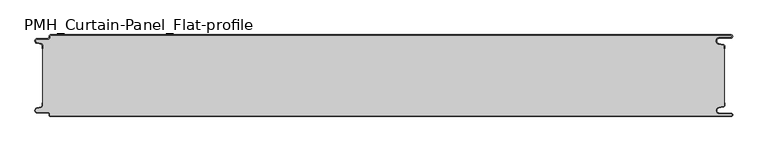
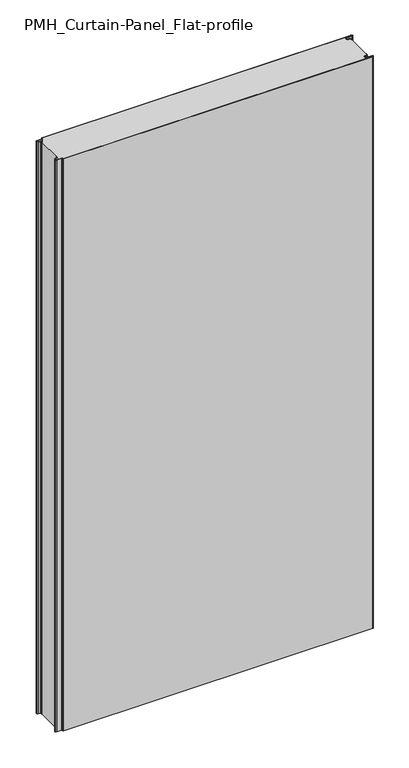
"""IFC4 building model written with IfcOpenShell, lengths in millimetres: plate geometry, PMH_Curtain-Panel_Flat-profile : ACH_PMH_Stone-wool-Panel_120M."""

from ifc_helpers import new_model, si_unit, point, frame, frame_2d, origin, origin_with_axes, place, context, project, spatial, polyline, circle_curve, trimmed, segment, composite_curve, outline, extrude, source, transform, mapped, element, save
from ifc_brep_helpers import plane_surface, cylinder_surface, revolved_surface, advanced_brep


def pmh_curtain_panel_flat_profile_f58c8318(model_context):
    return source(origin(), model_context, "Body", "SolidModel", [
        advanced_brep(
        [(508.1, 0.0, 1945.7507136), (-487.4, 0.0, 1945.7507136), (-489.4, -2.0, 1945.7507136), (-489.4, -3.4, 1945.7507136), (-491.4, -5.4, 1945.7507136), (-506.9, -5.4, 1945.7507136), (-507.7098239, -12.5077322, 1945.7507136), (-501.5500979, -13.929817, 1945.7507136), (-500.0, -15.878557, 1945.7507136), (-500.0, -20.0, 1945.7507136), (-499.2, -20.0, 1945.7507136), (-499.2, -15.878557, 1945.7507136), (-501.370137, -13.1503208, 1945.7507136), (-507.529863, -11.728236, 1945.7507136), (-506.9, -6.2, 1945.7507136), (-491.4, -6.2, 1945.7507136), (-488.6, -3.4, 1945.7507136), (-488.6, -2.0, 1945.7507136), (-487.4, -0.8, 1945.7507136), (508.1, -0.8, 1945.7507136), (508.1, -4.2, 1945.7507136), (491.1, -4.2, 1945.7507136), (490.2664884, -13.7270771, 1945.7507136), (496.7125669, -14.8636953, 1945.7507136), (498.2, -16.6363492, 1945.7507136), (498.2, -20.0, 1945.7507136), (499.0, -20.0, 1945.7507136), (499.0, -16.6363492, 1945.7507136), (496.8514855, -14.0758491, 1945.7507136), (490.405407, -12.939231, 1945.7507136), (491.1, -5.0, 1945.7507136), (508.1, -5.0, 1945.7507136), (510.6, -2.5000002, 1945.7507136), (-487.4, 0.0, 0.0), (508.1, 0.0, 0.0), (510.6, -2.4999998, 0.0), (508.1, -5.0, 0.0), (491.1, -5.0, 0.0), (490.405407, -12.939231, 0.0), (496.8514855, -14.0758491, 0.0), (499.0, -16.6363492, 0.0), (499.0, -20.0, 0.0), (498.2, -20.0, 0.0), (498.2, -16.6363492, 0.0), (496.7125669, -14.8636953, 0.0), (490.2664884, -13.7270771, 0.0), (491.1, -4.2, 0.0), (508.1, -4.2, 0.0), (508.1, -0.8, 0.0), (-487.4, -0.8, 0.0), (-488.6, -2.0, 0.0), (-488.6, -3.4, 0.0), (-491.4, -6.2, 0.0), (-506.9, -6.2, 0.0), (-507.529863, -11.7282362, 0.0), (-501.370137, -13.150321, 0.0), (-499.2, -15.878557, 0.0), (-499.2, -20.0, 0.0), (-500.0, -20.0, 0.0), (-500.0, -15.878557, 0.0), (-501.5500978, -13.9298169, 0.0), (-507.7098239, -12.507732, 0.0), (-506.9, -5.4, 0.0), (-491.4, -5.4, 0.0), (-489.4, -3.4, 0.0), (-489.4, -2.0, 0.0)],
        [
            (0, 1),
            (1, 2, circle_curve(frame((-487.4, -2.0, 1945.7507136), z_axis=(0.0, 0.0, 1.0), x_axis=(1.0, 0.0, 0.0)), 2.0)),
            (2, 3),
            (3, 4, circle_curve(frame((-491.4, -3.4, 1945.7507136), z_axis=(0.0, 0.0, -1.0), x_axis=(1.0, 0.0, 0.0)), 2.0)),
            (4, 5),
            (5, 6, circle_curve(frame((-506.9, -9.0, 1945.7507136), z_axis=(0.0, 0.0, 1.0), x_axis=(1.0, 0.0, 0.0)), 3.6)),
            (6, 7),
            (7, 8, circle_curve(frame((-502.0, -15.878557, 1945.7507136), z_axis=(0.0, 0.0, -1.0), x_axis=(1.0, 0.0, 0.0)), 2.0)),
            (8, 9),
            (9, 10),
            (10, 11),
            (11, 12, circle_curve(frame((-502.0, -15.878557, 1945.7507136), z_axis=(0.0, 0.0, 1.0), x_axis=(1.0, 0.0, 0.0)), 2.8)),
            (12, 13),
            (13, 14, circle_curve(frame((-506.9, -9.0, 1945.7507136), z_axis=(0.0, 0.0, -1.0), x_axis=(1.0, 0.0, 0.0)), 2.8)),
            (14, 15),
            (15, 16, circle_curve(frame((-491.4, -3.4, 1945.7507136), z_axis=(0.0, 0.0, 1.0), x_axis=(1.0, 0.0, 0.0)), 2.8)),
            (16, 17),
            (17, 18, circle_curve(frame((-487.4, -2.0, 1945.7507136), z_axis=(0.0, 0.0, -1.0), x_axis=(1.0, 0.0, 0.0)), 1.2)),
            (18, 19),
            (19, 20, circle_curve(frame((508.1, -2.5, 1945.7507136), z_axis=(0.0, 0.0, -1.0), x_axis=(1.0, 0.0, 0.0)), 1.7)),
            (20, 21),
            (21, 22, circle_curve(frame((491.1, -9.0, 1945.7507136), z_axis=(0.0, 0.0, 1.0), x_axis=(1.0, 0.0, 0.0)), 4.8)),
            (22, 23),
            (23, 24, circle_curve(frame((496.4, -16.6363492, 1945.7507136), z_axis=(0.0, 0.0, -1.0), x_axis=(1.0, 0.0, 0.0)), 1.8)),
            (24, 25),
            (25, 26),
            (26, 27),
            (27, 28, circle_curve(frame((496.4, -16.6363492, 1945.7507136), z_axis=(0.0, 0.0, 1.0), x_axis=(1.0, 0.0, 0.0)), 2.6)),
            (28, 29),
            (29, 30, circle_curve(frame((491.1, -9.0, 1945.7507136), z_axis=(0.0, 0.0, -1.0), x_axis=(1.0, 0.0, 0.0)), 4.0)),
            (30, 31),
            (31, 32, circle_curve(frame((508.1, -2.5, 1945.7507136), z_axis=(0.0, 0.0, 1.0), x_axis=(1.0, 0.0, 0.0)), 2.5)),
            (32, 0, circle_curve(frame((508.1, -2.5, 1945.7507136), z_axis=(0.0, 0.0, 1.0), x_axis=(1.0, 0.0, 0.0)), 2.5)),
            (33, 34),
            (34, 35, circle_curve(frame((508.1, -2.5, 0.0), z_axis=(0.0, 0.0, -1.0), x_axis=(1.0, 0.0, 0.0)), 2.5)),
            (35, 36, circle_curve(frame((508.1, -2.5, 0.0), z_axis=(0.0, 0.0, -1.0), x_axis=(1.0, 0.0, 0.0)), 2.5)),
            (36, 37),
            (37, 38, circle_curve(frame((491.1, -9.0, 0.0), z_axis=(0.0, 0.0, 1.0), x_axis=(1.0, 0.0, 0.0)), 4.0)),
            (38, 39),
            (39, 40, circle_curve(frame((496.4, -16.6363492, 0.0), z_axis=(0.0, 0.0, -1.0), x_axis=(1.0, 0.0, 0.0)), 2.6)),
            (40, 41),
            (41, 42),
            (42, 43),
            (43, 44, circle_curve(frame((496.4, -16.6363492, 0.0), z_axis=(0.0, 0.0, 1.0), x_axis=(1.0, 0.0, 0.0)), 1.8)),
            (44, 45),
            (45, 46, circle_curve(frame((491.1, -9.0, 0.0), z_axis=(0.0, 0.0, -1.0), x_axis=(1.0, 0.0, 0.0)), 4.8)),
            (46, 47),
            (47, 48, circle_curve(frame((508.1, -2.5, 0.0), z_axis=(0.0, 0.0, 1.0), x_axis=(1.0, 0.0, 0.0)), 1.7)),
            (48, 49),
            (49, 50, circle_curve(frame((-487.4, -2.0, 0.0), z_axis=(0.0, 0.0, 1.0), x_axis=(1.0, 0.0, 0.0)), 1.2)),
            (50, 51),
            (51, 52, circle_curve(frame((-491.4, -3.4, 0.0), z_axis=(0.0, 0.0, -1.0), x_axis=(1.0, 0.0, 0.0)), 2.8)),
            (52, 53),
            (53, 54, circle_curve(frame((-506.9, -9.0, 0.0), z_axis=(0.0, 0.0, 1.0), x_axis=(1.0, 0.0, 0.0)), 2.8)),
            (54, 55),
            (55, 56, circle_curve(frame((-502.0, -15.878557, 0.0), z_axis=(0.0, 0.0, -1.0), x_axis=(1.0, 0.0, 0.0)), 2.8)),
            (56, 57),
            (57, 58),
            (58, 59),
            (59, 60, circle_curve(frame((-502.0, -15.878557, 0.0), z_axis=(0.0, 0.0, 1.0), x_axis=(1.0, 0.0, 0.0)), 2.0)),
            (60, 61),
            (61, 62, circle_curve(frame((-506.9, -9.0, 0.0), z_axis=(0.0, 0.0, -1.0), x_axis=(1.0, 0.0, 0.0)), 3.6)),
            (62, 63),
            (63, 64, circle_curve(frame((-491.4, -3.4, 0.0), z_axis=(0.0, 0.0, 1.0), x_axis=(1.0, 0.0, 0.0)), 2.0)),
            (64, 65),
            (65, 33, circle_curve(frame((-487.4, -2.0, 0.0), z_axis=(0.0, 0.0, -1.0), x_axis=(1.0, 0.0, 0.0)), 2.0)),
            (1, 33),
            (65, 2),
            (64, 3),
            (63, 4),
            (62, 5),
            (61, 6),
            (60, 7),
            (59, 8),
            (58, 9),
            (57, 10),
            (56, 11),
            (55, 12),
            (54, 13),
            (53, 14),
            (52, 15),
            (51, 16),
            (50, 17),
            (49, 18),
            (48, 19),
            (47, 20),
            (46, 21),
            (45, 22),
            (44, 23),
            (43, 24),
            (42, 25),
            (41, 26),
            (40, 27),
            (39, 28),
            (38, 29),
            (37, 30),
            (36, 31),
            (34, 0),
        ],
        [
            plane_surface(frame((-500.0, 0.0, 1945.7507136), z_axis=(0.0, 0.0, 1.0), x_axis=(0.0, 1.0, 0.0))),
            plane_surface(frame((-500.0, 0.0, 0.0), z_axis=(0.0, 0.0, -1.0), x_axis=(0.0, 1.0, 0.0))),
            cylinder_surface(frame((-487.4, -2.0, 1945.7507136), z_axis=(0.0, 0.0, 1.0), x_axis=(1.0, 0.0, 0.0)), 2.0),
            plane_surface(frame((-489.4, -2.0, 1945.7507136), z_axis=(-1.0, 0.0, 0.0), x_axis=(0.0, 0.0, -1.0))),
            revolved_surface(polyline([(-489.4, -3.4, 0.0), (-489.4, -3.4, 1945.7507136)]), (-491.4, -3.4, 1945.7507136), (0.0, 0.0, -1.0)),
            plane_surface(frame((-491.4, -5.4, 1945.7507136), z_axis=(0.0, 1.0, 0.0), x_axis=(0.0, 0.0, -1.0))),
            cylinder_surface(frame((-506.9, -9.0, 1945.7507136), z_axis=(0.0, 0.0, 1.0), x_axis=(1.0, 0.0, 0.0)), 3.6),
            plane_surface(frame((-507.7098239, -12.507732, 1945.7507136), z_axis=(-0.2249510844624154, -0.9743700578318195, 0.0), x_axis=(0.0, 0.0, -1.0))),
            revolved_surface(polyline([(-500.0, -15.878557, 0.0), (-500.0, -15.878557, 1945.7507136)]), (-502.0, -15.878557, 1945.7507136), (0.0, 0.0, -1.0)),
            plane_surface(frame((-500.0, -15.878557, 1945.7507136), z_axis=(-1.0, 0.0, 0.0), x_axis=(0.0, 0.0, -1.0))),
            plane_surface(frame((-500.0, -20.0, 1945.7507136), z_axis=(0.0, -1.0, 0.0), x_axis=(0.0, 0.0, -1.0))),
            plane_surface(frame((-499.2, -20.0, 1945.7507136), z_axis=(1.0, 0.0, 0.0), x_axis=(0.0, 0.0, -1.0))),
            cylinder_surface(frame((-502.0, -15.878557, 1945.7507136), z_axis=(0.0, 0.0, 1.0), x_axis=(1.0, 0.0, 0.0)), 2.8),
            plane_surface(frame((-501.370137, -13.150321, 1945.7507136), z_axis=(0.22495108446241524, 0.9743700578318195, 0.0), x_axis=(0.0, 0.0, -1.0))),
            revolved_surface(polyline([(-504.09999999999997, -9.0, 0.0), (-504.09999999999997, -9.0, 1945.7507136)]), (-506.9, -9.0, 1945.7507136), (0.0, 0.0, -1.0)),
            plane_surface(frame((-506.9, -6.2, 1945.7507136), z_axis=(0.0, -1.0, 0.0), x_axis=(0.0, 0.0, -1.0))),
            cylinder_surface(frame((-491.4, -3.4, 1945.7507136), z_axis=(0.0, 0.0, 1.0), x_axis=(1.0, 0.0, 0.0)), 2.8),
            plane_surface(frame((-488.6, -3.4, 1945.7507136), z_axis=(1.0, 0.0, 0.0), x_axis=(0.0, 0.0, -1.0))),
            revolved_surface(polyline([(-486.2, -2.0, 0.0), (-486.2, -2.0, 1945.7507136)]), (-487.4, -2.0, 1945.7507136), (0.0, 0.0, -1.0)),
            plane_surface(frame((-487.4, -0.8, 1945.7507136), z_axis=(0.0, -1.0, 0.0), x_axis=(0.0, 0.0, -1.0))),
            revolved_surface(polyline([(509.8, -2.5, 0.0), (509.8, -2.5, 1945.7507136)]), (508.1, -2.5, 1945.7507136), (0.0, 0.0, -1.0)),
            plane_surface(frame((508.1, -4.2, 1945.7507136), z_axis=(0.0, 1.0, 0.0), x_axis=(0.0, 0.0, -1.0))),
            cylinder_surface(frame((491.1, -9.0, 1945.7507136), z_axis=(0.0, 0.0, 1.0), x_axis=(1.0, 0.0, 0.0)), 4.8),
            plane_surface(frame((490.2664884, -13.7270771, 1945.7507136), z_axis=(-0.17364826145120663, -0.984807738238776, 0.0), x_axis=(0.0, 0.0, -1.0))),
            revolved_surface(polyline([(498.2, -16.6363492, 0.0), (498.2, -16.6363492, 1945.7507136)]), (496.4, -16.6363492, 1945.7507136), (0.0, 0.0, -1.0)),
            plane_surface(frame((498.2, -16.6363492, 1945.7507136), z_axis=(-1.0, 0.0, 0.0), x_axis=(0.0, 0.0, -1.0))),
            plane_surface(frame((498.2, -20.0, 1945.7507136), z_axis=(0.0, -1.0, 0.0), x_axis=(0.0, 0.0, -1.0))),
            plane_surface(frame((499.0, -20.0, 1945.7507136), z_axis=(1.0, 0.0, 0.0), x_axis=(0.0, 0.0, -1.0))),
            cylinder_surface(frame((496.4, -16.6363492, 1945.7507136), z_axis=(0.0, 0.0, 1.0), x_axis=(1.0, 0.0, 0.0)), 2.6),
            plane_surface(frame((496.8514855, -14.0758491, 1945.7507136), z_axis=(0.17364826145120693, 0.9848077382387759, 0.0), x_axis=(0.0, 0.0, -1.0))),
            revolved_surface(polyline([(495.1, -9.0, 0.0), (495.1, -9.0, 1945.7507136)]), (491.1, -9.0, 1945.7507136), (0.0, 0.0, -1.0)),
            plane_surface(frame((491.1, -5.0, 1945.7507136), z_axis=(0.0, -1.0, 0.0), x_axis=(0.0, 0.0, -1.0))),
            cylinder_surface(frame((508.1, -2.5, 1945.7507136), z_axis=(0.0, 0.0, 1.0), x_axis=(1.0, 0.0, 0.0)), 2.5),
            plane_surface(frame((490.5783588, 0.0, 1945.7507136), z_axis=(0.0, 1.0, 0.0), x_axis=(0.0, 0.0, -1.0))),
        ],
        [
            (0, [[1, 2, 3, 4, 5, 6, 7, 8, 9, 10, 11, 12, 13, 14, 15, 16, 17, 18, 19, 20, 21, 22, 23, 24, 25, 26, 27, 28, 29, 30, 31, 32, 33]]),
            (1, [[34, 35, 36, 37, 38, 39, 40, 41, 42, 43, 44, 45, 46, 47, 48, 49, 50, 51, 52, 53, 54, 55, 56, 57, 58, 59, 60, 61, 62, 63, 64, 65, 66]]),
            (2, [[-2, 67, -66, 68]]),
            (3, [[-3, -68, -65, 69]]),
            (4, [[-4, -69, -64, 70]]),
            (5, [[-5, -70, -63, 71]]),
            (6, [[-6, -71, -62, 72]]),
            (7, [[-7, -72, -61, 73]]),
            (8, [[-8, -73, -60, 74]]),
            (9, [[-9, -74, -59, 75]]),
            (10, [[-10, -75, -58, 76]]),
            (11, [[-11, -76, -57, 77]]),
            (12, [[-12, -77, -56, 78]]),
            (13, [[-13, -78, -55, 79]]),
            (14, [[-14, -79, -54, 80]]),
            (15, [[-15, -80, -53, 81]]),
            (16, [[-16, -81, -52, 82]]),
            (17, [[-17, -82, -51, 83]]),
            (18, [[-18, -83, -50, 84]]),
            (19, [[-19, -84, -49, 85]]),
            (20, [[-20, -85, -48, 86]]),
            (21, [[-21, -86, -47, 87]]),
            (22, [[-22, -87, -46, 88]]),
            (23, [[-23, -88, -45, 89]]),
            (24, [[-24, -89, -44, 90]]),
            (25, [[-25, -90, -43, 91]]),
            (26, [[-26, -91, -42, 92]]),
            (27, [[-27, -92, -41, 93]]),
            (28, [[-28, -93, -40, 94]]),
            (29, [[-29, -94, -39, 95]]),
            (30, [[-30, -95, -38, 96]]),
            (31, [[-31, -96, -37, 97]]),
            (32, [[-97, -36, -35, 98, -33, -32]]),
            (33, [[-1, -98, -34, -67]]),
        ],
    ),
        extrude(outline(composite_curve([segment(polyline([(-499.2, -104.1214426), (-499.2, -15.8785573)]), True, "CONTINUOUS"), segment(trimmed(circle_curve(frame_2d((-502.0, -15.8785573)), 2.8), [point((-499.2, -15.8785573))], [point((-501.370137, -13.1503212))], True, "CARTESIAN"), True, "CONTINUOUS"), segment(polyline([(-501.370137, -13.1503212), (-507.5298631, -11.7282362)]), True, "CONTINUOUS"), segment(trimmed(circle_curve(frame_2d((-506.9, -9.0)), 2.8), [point((-507.5298631, -11.7282362))], [point((-506.9, -6.2))], False, "CARTESIAN"), True, "CONTINUOUS"), segment(polyline([(-506.9, -6.2), (-491.4000001, -6.2)]), True, "CONTINUOUS"), segment(trimmed(circle_curve(frame_2d((-491.4000001, -3.4)), 2.8), [point((-491.4000001, -6.2))], [point((-488.6000001, -3.4))], True, "CARTESIAN"), True, "CONTINUOUS"), segment(polyline([(-488.6000001, -3.4), (-488.6000001, -2.0)]), True, "CONTINUOUS"), segment(trimmed(circle_curve(frame_2d((-487.4000001, -2.0)), 1.2), [point((-488.6000001, -2.0))], [point((-487.4000001, -0.8))], False, "CARTESIAN"), True, "CONTINUOUS"), segment(polyline([(-487.4000001, -0.8), (508.1, -0.8)]), True, "CONTINUOUS"), segment(trimmed(circle_curve(frame_2d((508.1, -2.5)), 1.7), [point((508.1, -0.8))], [point((508.1, -4.2))], False, "CARTESIAN"), True, "CONTINUOUS"), segment(polyline([(508.1, -4.2), (491.1, -4.2)]), True, "CONTINUOUS"), segment(trimmed(circle_curve(frame_2d((491.1, -9.0)), 4.8), [point((491.1, -4.2))], [point((490.2664883, -13.7270771))], True, "CARTESIAN"), True, "CONTINUOUS"), segment(polyline([(490.2664883, -13.7270771), (496.7125668, -14.8636953)]), True, "CONTINUOUS"), segment(trimmed(circle_curve(frame_2d((496.4, -16.6363492)), 1.8), [point((496.7125668, -14.8636953))], [point((498.2, -16.6363492))], False, "CARTESIAN"), True, "CONTINUOUS"), segment(polyline([(498.2, -16.6363492), (498.2, -103.3636508)]), True, "CONTINUOUS"), segment(trimmed(circle_curve(frame_2d((496.4, -103.3636508)), 1.8), [point((498.2, -103.3636508))], [point((496.7125668, -105.1363047))], False, "CARTESIAN"), True, "CONTINUOUS"), segment(polyline([(496.7125668, -105.1363047), (490.2664883, -106.2729229)]), True, "CONTINUOUS"), segment(trimmed(circle_curve(frame_2d((491.1, -111.0)), 4.8), [point((490.2664883, -106.2729229))], [point((491.1, -115.8))], True, "CARTESIAN"), True, "CONTINUOUS"), segment(polyline([(491.1, -115.8), (508.1, -115.8)]), True, "CONTINUOUS"), segment(trimmed(circle_curve(frame_2d((508.1, -117.5)), 1.7), [point((508.1, -115.8))], [point((508.1, -119.2))], False, "CARTESIAN"), True, "CONTINUOUS"), segment(polyline([(508.1, -119.2), (-487.4000001, -119.2)]), True, "CONTINUOUS"), segment(trimmed(circle_curve(frame_2d((-487.4000001, -118.0)), 1.2), [point((-487.4000001, -119.2))], [point((-488.6000001, -118.0))], False, "CARTESIAN"), True, "CONTINUOUS"), segment(polyline([(-488.6000001, -118.0), (-488.6000001, -116.6)]), True, "CONTINUOUS"), segment(trimmed(circle_curve(frame_2d((-491.4000001, -116.6)), 2.8), [point((-488.6000001, -116.6))], [point((-491.4000001, -113.8))], True, "CARTESIAN"), True, "CONTINUOUS"), segment(polyline([(-491.4000001, -113.8), (-506.9, -113.8)]), True, "CONTINUOUS"), segment(trimmed(circle_curve(frame_2d((-506.9, -111.0)), 2.8), [point((-506.9, -113.8))], [point((-507.5298631, -108.2717638))], False, "CARTESIAN"), True, "CONTINUOUS"), segment(polyline([(-507.5298631, -108.2717638), (-501.370137, -106.8496788)]), True, "CONTINUOUS"), segment(trimmed(circle_curve(frame_2d((-502.0, -104.1214426)), 2.8), [point((-501.370137, -106.8496788))], [point((-499.2, -104.1214426))], True, "CARTESIAN"), True, "CONTINUOUS")], self_intersect=False)), origin_with_axes(), (0.0, 0.0, 1.0), 1945.7507136),
        advanced_brep(
        [(-487.4, -120.0, 1945.7507136), (508.1, -120.0, 1945.7507136), (510.6, -117.5000002, 1945.7507136), (508.1, -115.0, 1945.7507136), (491.1, -115.0, 1945.7507136), (490.405407, -107.060769, 1945.7507136), (496.8514855, -105.9241509, 1945.7507136), (499.0, -103.3636508, 1945.7507136), (499.0, -100.0, 1945.7507136), (498.2, -100.0, 1945.7507136), (498.2, -103.3636508, 1945.7507136), (496.7125669, -105.1363047, 1945.7507136), (490.2664884, -106.2729229, 1945.7507136), (491.1, -115.8, 1945.7507136), (508.1, -115.8, 1945.7507136), (508.1, -119.2, 1945.7507136), (-487.4, -119.2, 1945.7507136), (-488.6, -118.0, 1945.7507136), (-488.6, -116.6, 1945.7507136), (-491.4, -113.8, 1945.7507136), (-506.9, -113.8, 1945.7507136), (-507.529863, -108.2717638, 1945.7507136), (-501.370137, -106.849679, 1945.7507136), (-499.2, -104.121443, 1945.7507136), (-499.2, -100.0, 1945.7507136), (-500.0, -100.0, 1945.7507136), (-500.0, -104.121443, 1945.7507136), (-501.5500978, -106.0701831, 1945.7507136), (-507.7098239, -107.492268, 1945.7507136), (-506.9, -114.6, 1945.7507136), (-491.4, -114.6, 1945.7507136), (-489.4, -116.6, 1945.7507136), (-489.4, -118.0, 1945.7507136), (508.1, -120.0, 0.0), (-487.4, -120.0, 0.0), (-489.4, -118.0, 0.0), (-489.4, -116.6, 0.0), (-491.4, -114.6, 0.0), (-506.9, -114.6, 0.0), (-507.7098239, -107.4922678, 0.0), (-501.5500979, -106.070183, 0.0), (-500.0, -104.121443, 0.0), (-500.0, -100.0, 0.0), (-499.2, -100.0, 0.0), (-499.2, -104.121443, 0.0), (-501.370137, -106.8496792, 0.0), (-507.529863, -108.271764, 0.0), (-506.9, -113.8, 0.0), (-491.4, -113.8, 0.0), (-488.6, -116.6, 0.0), (-488.6, -118.0, 0.0), (-487.4, -119.2, 0.0), (508.1, -119.2, 0.0), (508.1, -115.8, 0.0), (491.1, -115.8, 0.0), (490.2664884, -106.2729229, 0.0), (496.7125669, -105.1363047, 0.0), (498.2, -103.3636508, 0.0), (498.2, -100.0, 0.0), (499.0, -100.0, 0.0), (499.0, -103.3636508, 0.0), (496.8514855, -105.9241509, 0.0), (490.405407, -107.060769, 0.0), (491.1, -115.0, 0.0), (508.1, -115.0, 0.0), (510.6, -117.4999998, 0.0)],
        [
            (0, 1),
            (1, 2, circle_curve(frame((508.1, -117.5, 1945.7507136), z_axis=(0.0, 0.0, 1.0), x_axis=(1.0, 0.0, 0.0)), 2.5)),
            (2, 3, circle_curve(frame((508.1, -117.5, 1945.7507136), z_axis=(0.0, 0.0, 1.0), x_axis=(1.0, 0.0, 0.0)), 2.5)),
            (3, 4),
            (4, 5, circle_curve(frame((491.1, -111.0, 1945.7507136), z_axis=(0.0, 0.0, -1.0), x_axis=(1.0, 0.0, 0.0)), 4.0)),
            (5, 6),
            (6, 7, circle_curve(frame((496.4, -103.3636508, 1945.7507136), z_axis=(0.0, 0.0, 1.0), x_axis=(1.0, 0.0, 0.0)), 2.6)),
            (7, 8),
            (8, 9),
            (9, 10),
            (10, 11, circle_curve(frame((496.4, -103.3636508, 1945.7507136), z_axis=(0.0, 0.0, -1.0), x_axis=(1.0, 0.0, 0.0)), 1.8)),
            (11, 12),
            (12, 13, circle_curve(frame((491.1, -111.0, 1945.7507136), z_axis=(0.0, 0.0, 1.0), x_axis=(1.0, 0.0, 0.0)), 4.8)),
            (13, 14),
            (14, 15, circle_curve(frame((508.1, -117.5, 1945.7507136), z_axis=(0.0, 0.0, -1.0), x_axis=(1.0, 0.0, 0.0)), 1.7)),
            (15, 16),
            (16, 17, circle_curve(frame((-487.4, -118.0, 1945.7507136), z_axis=(0.0, 0.0, -1.0), x_axis=(1.0, 0.0, 0.0)), 1.2)),
            (17, 18),
            (18, 19, circle_curve(frame((-491.4, -116.6, 1945.7507136), z_axis=(0.0, 0.0, 1.0), x_axis=(1.0, 0.0, 0.0)), 2.8)),
            (19, 20),
            (20, 21, circle_curve(frame((-506.9, -111.0, 1945.7507136), z_axis=(0.0, 0.0, -1.0), x_axis=(1.0, 0.0, 0.0)), 2.8)),
            (21, 22),
            (22, 23, circle_curve(frame((-502.0, -104.121443, 1945.7507136), z_axis=(0.0, 0.0, 1.0), x_axis=(1.0, 0.0, 0.0)), 2.8)),
            (23, 24),
            (24, 25),
            (25, 26),
            (26, 27, circle_curve(frame((-502.0, -104.121443, 1945.7507136), z_axis=(0.0, 0.0, -1.0), x_axis=(1.0, 0.0, 0.0)), 2.0)),
            (27, 28),
            (28, 29, circle_curve(frame((-506.9, -111.0, 1945.7507136), z_axis=(0.0, 0.0, 1.0), x_axis=(1.0, 0.0, 0.0)), 3.6)),
            (29, 30),
            (30, 31, circle_curve(frame((-491.4, -116.6, 1945.7507136), z_axis=(0.0, 0.0, -1.0), x_axis=(1.0, 0.0, 0.0)), 2.0)),
            (31, 32),
            (32, 0, circle_curve(frame((-487.4, -118.0, 1945.7507136), z_axis=(0.0, 0.0, 1.0), x_axis=(1.0, 0.0, 0.0)), 2.0)),
            (33, 34),
            (34, 35, circle_curve(frame((-487.4, -118.0, 0.0), z_axis=(0.0, 0.0, -1.0), x_axis=(1.0, 0.0, 0.0)), 2.0)),
            (35, 36),
            (36, 37, circle_curve(frame((-491.4, -116.6, 0.0), z_axis=(0.0, 0.0, 1.0), x_axis=(1.0, 0.0, 0.0)), 2.0)),
            (37, 38),
            (38, 39, circle_curve(frame((-506.9, -111.0, 0.0), z_axis=(0.0, 0.0, -1.0), x_axis=(1.0, 0.0, 0.0)), 3.6)),
            (39, 40),
            (40, 41, circle_curve(frame((-502.0, -104.121443, 0.0), z_axis=(0.0, 0.0, 1.0), x_axis=(1.0, 0.0, 0.0)), 2.0)),
            (41, 42),
            (42, 43),
            (43, 44),
            (44, 45, circle_curve(frame((-502.0, -104.121443, 0.0), z_axis=(0.0, 0.0, -1.0), x_axis=(1.0, 0.0, 0.0)), 2.8)),
            (45, 46),
            (46, 47, circle_curve(frame((-506.9, -111.0, 0.0), z_axis=(0.0, 0.0, 1.0), x_axis=(1.0, 0.0, 0.0)), 2.8)),
            (47, 48),
            (48, 49, circle_curve(frame((-491.4, -116.6, 0.0), z_axis=(0.0, 0.0, -1.0), x_axis=(1.0, 0.0, 0.0)), 2.8)),
            (49, 50),
            (50, 51, circle_curve(frame((-487.4, -118.0, 0.0), z_axis=(0.0, 0.0, 1.0), x_axis=(1.0, 0.0, 0.0)), 1.2)),
            (51, 52),
            (52, 53, circle_curve(frame((508.1, -117.5, 0.0), z_axis=(0.0, 0.0, 1.0), x_axis=(1.0, 0.0, 0.0)), 1.7)),
            (53, 54),
            (54, 55, circle_curve(frame((491.1, -111.0, 0.0), z_axis=(0.0, 0.0, -1.0), x_axis=(1.0, 0.0, 0.0)), 4.8)),
            (55, 56),
            (56, 57, circle_curve(frame((496.4, -103.3636508, 0.0), z_axis=(0.0, 0.0, 1.0), x_axis=(1.0, 0.0, 0.0)), 1.8)),
            (57, 58),
            (58, 59),
            (59, 60),
            (60, 61, circle_curve(frame((496.4, -103.3636508, 0.0), z_axis=(0.0, 0.0, -1.0), x_axis=(1.0, 0.0, 0.0)), 2.6)),
            (61, 62),
            (62, 63, circle_curve(frame((491.1, -111.0, 0.0), z_axis=(0.0, 0.0, 1.0), x_axis=(1.0, 0.0, 0.0)), 4.0)),
            (63, 64),
            (64, 65, circle_curve(frame((508.1, -117.5, 0.0), z_axis=(0.0, 0.0, -1.0), x_axis=(1.0, 0.0, 0.0)), 2.5)),
            (65, 33, circle_curve(frame((508.1, -117.5, 0.0), z_axis=(0.0, 0.0, -1.0), x_axis=(1.0, 0.0, 0.0)), 2.5)),
            (0, 34),
            (33, 1),
            (64, 3),
            (63, 4),
            (62, 5),
            (61, 6),
            (60, 7),
            (59, 8),
            (58, 9),
            (57, 10),
            (56, 11),
            (55, 12),
            (54, 13),
            (53, 14),
            (52, 15),
            (51, 16),
            (50, 17),
            (49, 18),
            (48, 19),
            (47, 20),
            (46, 21),
            (45, 22),
            (44, 23),
            (43, 24),
            (42, 25),
            (41, 26),
            (40, 27),
            (39, 28),
            (38, 29),
            (37, 30),
            (36, 31),
            (35, 32),
        ],
        [
            plane_surface(frame((-500.0, -120.0, 1945.7507136), z_axis=(0.0, 0.0, 1.0), x_axis=(0.0, 1.0, 0.0))),
            plane_surface(frame((-500.0, -120.0, 0.0), z_axis=(0.0, 0.0, -1.0), x_axis=(0.0, 1.0, 0.0))),
            plane_surface(frame((490.5783588, -120.0, 1945.7507136), z_axis=(0.0, -1.0, 0.0), x_axis=(0.0, 0.0, -1.0))),
            cylinder_surface(frame((508.1, -117.5, 1945.7507136), z_axis=(0.0, 0.0, 1.0), x_axis=(1.0, 0.0, 0.0)), 2.5),
            plane_surface(frame((508.1, -115.0, 1945.7507136), z_axis=(0.0, 1.0, 0.0), x_axis=(0.0, 0.0, -1.0))),
            revolved_surface(polyline([(495.1, -111.0, 0.0), (495.1, -111.0, 1945.7507136)]), (491.1, -111.0, 1945.7507136), (0.0, 0.0, -1.0)),
            plane_surface(frame((490.405407, -107.060769, 1945.7507136), z_axis=(0.17364826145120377, -0.9848077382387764, 0.0), x_axis=(0.0, 0.0, -1.0))),
            cylinder_surface(frame((496.4, -103.3636508, 1945.7507136), z_axis=(0.0, 0.0, 1.0), x_axis=(1.0, 0.0, 0.0)), 2.6),
            plane_surface(frame((499.0, -103.3636508, 1945.7507136), z_axis=(1.0, 0.0, 0.0), x_axis=(0.0, 0.0, -1.0))),
            plane_surface(frame((499.0, -100.0, 1945.7507136), z_axis=(0.0, 1.0, 0.0), x_axis=(0.0, 0.0, -1.0))),
            plane_surface(frame((498.2, -100.0, 1945.7507136), z_axis=(-1.0, 0.0, 0.0), x_axis=(0.0, 0.0, -1.0))),
            revolved_surface(polyline([(498.2, -103.3636508, 0.0), (498.2, -103.3636508, 1945.7507136)]), (496.4, -103.3636508, 1945.7507136), (0.0, 0.0, -1.0)),
            plane_surface(frame((496.7125669, -105.1363047, 1945.7507136), z_axis=(-0.17364826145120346, 0.9848077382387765, 0.0), x_axis=(0.0, 0.0, -1.0))),
            cylinder_surface(frame((491.1, -111.0, 1945.7507136), z_axis=(0.0, 0.0, 1.0), x_axis=(1.0, 0.0, 0.0)), 4.8),
            plane_surface(frame((491.1, -115.8, 1945.7507136), z_axis=(0.0, -1.0, 0.0), x_axis=(0.0, 0.0, -1.0))),
            revolved_surface(polyline([(509.8, -117.5, 0.0), (509.8, -117.5, 1945.7507136)]), (508.1, -117.5, 1945.7507136), (0.0, 0.0, -1.0)),
            plane_surface(frame((508.1, -119.2, 1945.7507136), z_axis=(0.0, 1.0, 0.0), x_axis=(0.0, 0.0, -1.0))),
            revolved_surface(polyline([(-486.2, -118.0, 0.0), (-486.2, -118.0, 1945.7507136)]), (-487.4, -118.0, 1945.7507136), (0.0, 0.0, -1.0)),
            plane_surface(frame((-488.6, -118.0, 1945.7507136), z_axis=(1.0, 0.0, 0.0), x_axis=(0.0, 0.0, -1.0))),
            cylinder_surface(frame((-491.4, -116.6, 1945.7507136), z_axis=(0.0, 0.0, 1.0), x_axis=(1.0, 0.0, 0.0)), 2.8),
            plane_surface(frame((-491.4, -113.8, 1945.7507136), z_axis=(0.0, 1.0, 0.0), x_axis=(0.0, 0.0, -1.0))),
            revolved_surface(polyline([(-504.09999999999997, -111.0, 0.0), (-504.09999999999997, -111.0, 1945.7507136)]), (-506.9, -111.0, 1945.7507136), (0.0, 0.0, -1.0)),
            plane_surface(frame((-507.529863, -108.271764, 1945.7507136), z_axis=(0.2249510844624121, -0.9743700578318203, 0.0), x_axis=(0.0, 0.0, -1.0))),
            cylinder_surface(frame((-502.0, -104.121443, 1945.7507136), z_axis=(0.0, 0.0, 1.0), x_axis=(1.0, 0.0, 0.0)), 2.8),
            plane_surface(frame((-499.2, -104.121443, 1945.7507136), z_axis=(1.0, 0.0, 0.0), x_axis=(0.0, 0.0, -1.0))),
            plane_surface(frame((-499.2, -100.0, 1945.7507136), z_axis=(0.0, 1.0, 0.0), x_axis=(0.0, 0.0, -1.0))),
            plane_surface(frame((-500.0, -100.0, 1945.7507136), z_axis=(-1.0, 0.0, 0.0), x_axis=(0.0, 0.0, -1.0))),
            revolved_surface(polyline([(-500.0, -104.121443, 0.0), (-500.0, -104.121443, 1945.7507136)]), (-502.0, -104.121443, 1945.7507136), (0.0, 0.0, -1.0)),
            plane_surface(frame((-501.5500979, -106.070183, 1945.7507136), z_axis=(-0.22495108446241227, 0.9743700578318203, 0.0), x_axis=(0.0, 0.0, -1.0))),
            cylinder_surface(frame((-506.9, -111.0, 1945.7507136), z_axis=(0.0, 0.0, 1.0), x_axis=(1.0, 0.0, 0.0)), 3.6),
            plane_surface(frame((-506.9, -114.6, 1945.7507136), z_axis=(0.0, -1.0, 0.0), x_axis=(0.0, 0.0, -1.0))),
            revolved_surface(polyline([(-489.4, -116.6, 0.0), (-489.4, -116.6, 1945.7507136)]), (-491.4, -116.6, 1945.7507136), (0.0, 0.0, -1.0)),
            plane_surface(frame((-489.4, -116.6, 1945.7507136), z_axis=(-1.0, 0.0, 0.0), x_axis=(0.0, 0.0, -1.0))),
            cylinder_surface(frame((-487.4, -118.0, 1945.7507136), z_axis=(0.0, 0.0, 1.0), x_axis=(1.0, 0.0, 0.0)), 2.0),
        ],
        [
            (0, [[1, 2, 3, 4, 5, 6, 7, 8, 9, 10, 11, 12, 13, 14, 15, 16, 17, 18, 19, 20, 21, 22, 23, 24, 25, 26, 27, 28, 29, 30, 31, 32, 33]]),
            (1, [[34, 35, 36, 37, 38, 39, 40, 41, 42, 43, 44, 45, 46, 47, 48, 49, 50, 51, 52, 53, 54, 55, 56, 57, 58, 59, 60, 61, 62, 63, 64, 65, 66]]),
            (2, [[-1, 67, -34, 68]]),
            (3, [[-68, -66, -65, 69, -3, -2]]),
            (4, [[-4, -69, -64, 70]]),
            (5, [[-5, -70, -63, 71]]),
            (6, [[-6, -71, -62, 72]]),
            (7, [[-7, -72, -61, 73]]),
            (8, [[-8, -73, -60, 74]]),
            (9, [[-9, -74, -59, 75]]),
            (10, [[-10, -75, -58, 76]]),
            (11, [[-11, -76, -57, 77]]),
            (12, [[-12, -77, -56, 78]]),
            (13, [[-13, -78, -55, 79]]),
            (14, [[-14, -79, -54, 80]]),
            (15, [[-15, -80, -53, 81]]),
            (16, [[-16, -81, -52, 82]]),
            (17, [[-17, -82, -51, 83]]),
            (18, [[-18, -83, -50, 84]]),
            (19, [[-19, -84, -49, 85]]),
            (20, [[-20, -85, -48, 86]]),
            (21, [[-21, -86, -47, 87]]),
            (22, [[-22, -87, -46, 88]]),
            (23, [[-23, -88, -45, 89]]),
            (24, [[-24, -89, -44, 90]]),
            (25, [[-25, -90, -43, 91]]),
            (26, [[-26, -91, -42, 92]]),
            (27, [[-27, -92, -41, 93]]),
            (28, [[-28, -93, -40, 94]]),
            (29, [[-29, -94, -39, 95]]),
            (30, [[-30, -95, -38, 96]]),
            (31, [[-31, -96, -37, 97]]),
            (32, [[-32, -97, -36, 98]]),
            (33, [[-33, -98, -35, -67]]),
        ],
    ),
    ])


if __name__ == "__main__":
    model = new_model("IFC4")
    model_context = context("Model", 3, world=origin())
    ifc_project = project(units=[si_unit("LENGTHUNIT", "METRE", prefix="MILLI")], contexts=[model_context])
    site = spatial("IfcSite", under=ifc_project)
    building = spatial("IfcBuilding", under=site)
    placement = place(None, origin())
    pmh_curtain_panel_flat_profile_shape = pmh_curtain_panel_flat_profile_f58c8318(model_context)
    element("IfcPlate", 1, ObjectType="PMH_Curtain-Panel_Flat-profile : ACH_PMH_Stone-wool-Panel_120M", at=placement, inside=building, context=model_context, shape_type="MappedRepresentation", body=[
        mapped(pmh_curtain_panel_flat_profile_shape, transform((0.0, 0.0, 0.0), x_axis=(1.0, 0.0, 0.0), y_axis=(0.0, 1.0, 0.0), z_axis=(0.0, 0.0, 1.0))),
    ])
    save(model, "model.ifc")
